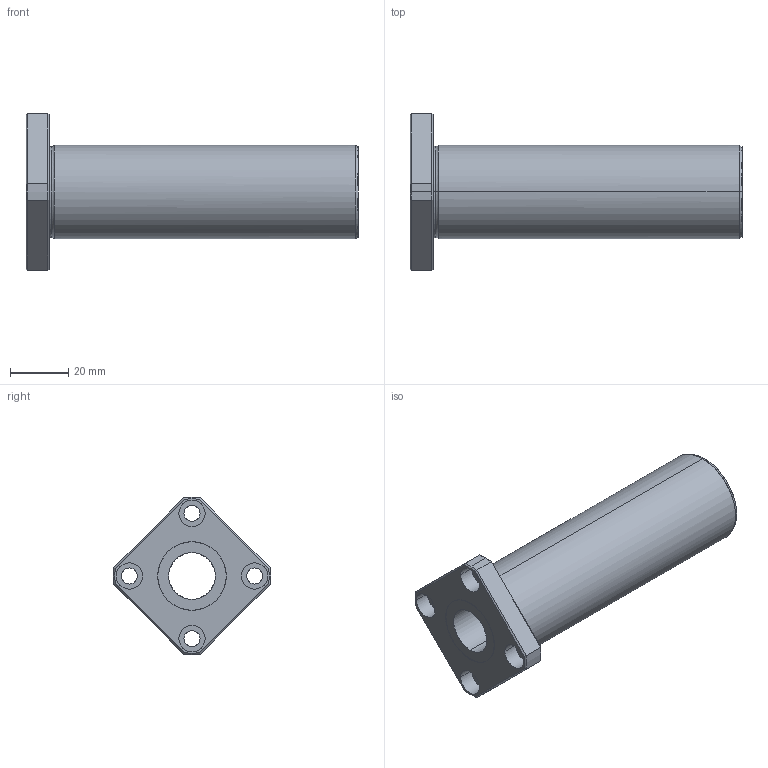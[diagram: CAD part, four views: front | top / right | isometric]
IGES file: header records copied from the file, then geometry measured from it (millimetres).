
Global section: file name: No Iges File Name specified; native system: AutoDesk Inventor R10; preprocessor: AutoDesk Inventor Iges Exporter R10; author: No Author specified; organization: No Organization specified; date: 20101216.172645; units: millimetre
Bounding box: 114 x 54 x 54 mm (x, y, z)
Surface area: 21221.5 mm2 (no closed solid volume)
Topology: 0 solids, 0 shells, 69 faces, 416 edges, 416 vertices
Faces by surface type: bspline 69
